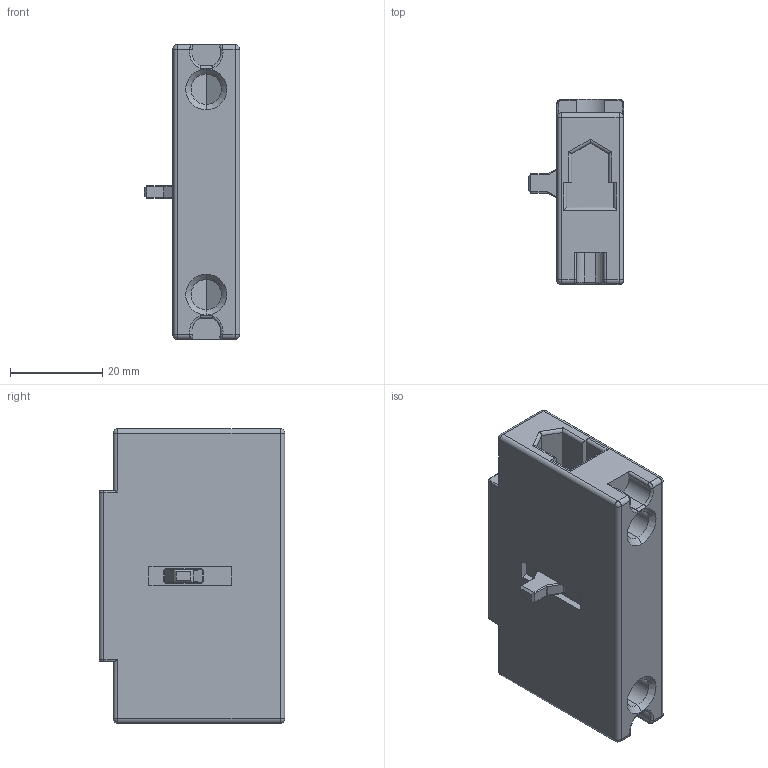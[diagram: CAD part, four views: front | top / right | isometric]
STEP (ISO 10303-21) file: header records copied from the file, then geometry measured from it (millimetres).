
FILE_DESCRIPTION (( 'STEP AP203' ), '1' );
FILE_NAME ('PE80E.STEP', '2014-05-13T06:13:28', ( '' ), ( '' ), 'SwSTEP 2.0', 'SolidWorks 2014', '' );
FILE_SCHEMA (( 'CONFIG_CONTROL_DESIGN' ));
Length unit declared in the file: millimetre
Products named in the file (1): PE80E
Bounding box: 20.7 x 40.3 x 64 mm (x, y, z)
Volume: 31142.3 mm3; surface area: 9942.2 mm2
Topology: 1 solids, 1 shells, 155 faces, 381 edges, 224 vertices
Faces by surface type: cylinder 71, plane 52, torus 12, bspline 8, sphere 8, cone 4
Entity records: 4758 total; most frequent: CARTESIAN_POINT 1143, ORIENTED_EDGE 746, DIRECTION 741, EDGE_CURVE 373, AXIS2_PLACEMENT_3D 266, VERTEX_POINT 224, LINE 209, VECTOR 209
